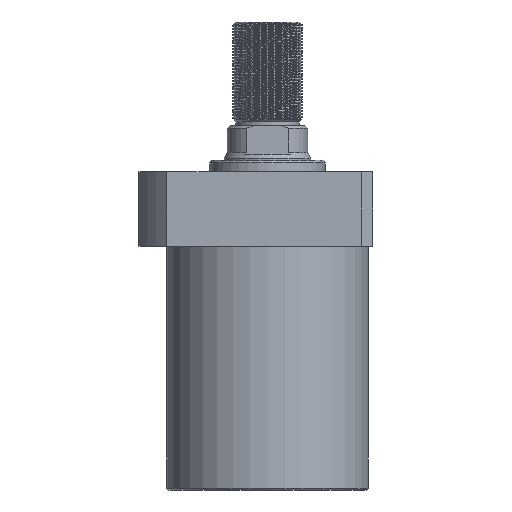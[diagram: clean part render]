
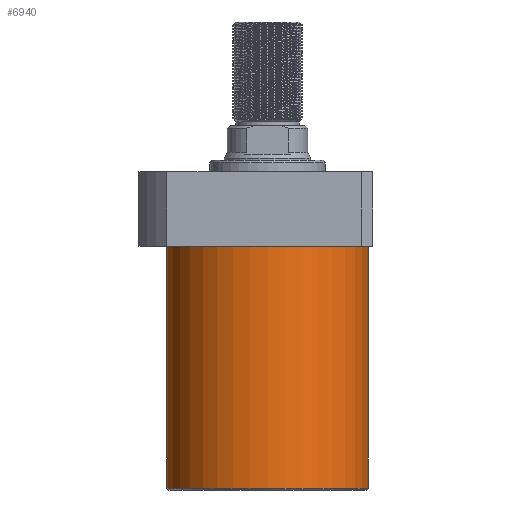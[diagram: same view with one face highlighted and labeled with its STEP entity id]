
A CAD part, front view. The second image highlights one B-rep face of the part: STEP entity #6940.
In plain terms, the highlighted cylindrical face has radius 52.5 mm (diameter 105 mm), a partial arc.
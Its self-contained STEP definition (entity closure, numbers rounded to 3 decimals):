
#470 = CARTESIAN_POINT ( 'NONE',  ( 52.5, 0., -145.5 ) ) ;
#562 = DIRECTION ( 'NONE',  ( 0., 0., -1. ) ) ;
#571 = EDGE_CURVE ( 'NONE', #6699, #4148, #2013, .T. ) ;
#671 = CARTESIAN_POINT ( 'NONE',  ( 52.5, 0., -146.5 ) ) ;
#1030 = LINE ( 'NONE', #671, #7731 ) ;
#1479 = DIRECTION ( 'NONE',  ( 1., 0., 0. ) ) ;
#1556 = ORIENTED_EDGE ( 'NONE', *, *, #4036, .T. ) ;
#1613 = ORIENTED_EDGE ( 'NONE', *, *, #8180, .T. ) ;
#2013 = LINE ( 'NONE', #6264, #6746 ) ;
#2092 = ORIENTED_EDGE ( 'NONE', *, *, #571, .F. ) ;
#2661 = CYLINDRICAL_SURFACE ( 'NONE', #2695, 52.5 ) ;
#2695 = AXIS2_PLACEMENT_3D ( 'NONE', #6024, #6667, #1479 ) ;
#2770 = DIRECTION ( 'NONE',  ( 0., 0., 1. ) ) ;
#2806 = CIRCLE ( 'NONE', #7689, 52.5 ) ;
#3049 = EDGE_LOOP ( 'NONE', ( #2092, #1556, #1613, #3697 ) ) ;
#3697 = ORIENTED_EDGE ( 'NONE', *, *, #4393, .T. ) ;
#4036 = EDGE_CURVE ( 'NONE', #6699, #6520, #2806, .T. ) ;
#4148 = VERTEX_POINT ( 'NONE', #8032 ) ;
#4320 = AXIS2_PLACEMENT_3D ( 'NONE', #4435, #562, #5085 ) ;
#4393 = EDGE_CURVE ( 'NONE', #4902, #4148, #8332, .T. ) ;
#4435 = CARTESIAN_POINT ( 'NONE',  ( 0., 0., -19.5 ) ) ;
#4902 = VERTEX_POINT ( 'NONE', #7475 ) ;
#5085 = DIRECTION ( 'NONE',  ( 1., 0., 0. ) ) ;
#5194 = DIRECTION ( 'NONE',  ( 0., 0., 1. ) ) ;
#5875 = CARTESIAN_POINT ( 'NONE',  ( -52.5, 0., -145.5 ) ) ;
#6024 = CARTESIAN_POINT ( 'NONE',  ( 0., 0., -146.5 ) ) ;
#6264 = CARTESIAN_POINT ( 'NONE',  ( -52.5, 0., -146.5 ) ) ;
#6520 = VERTEX_POINT ( 'NONE', #470 ) ;
#6641 = CARTESIAN_POINT ( 'NONE',  ( 0., 0., -145.5 ) ) ;
#6667 = DIRECTION ( 'NONE',  ( 0., 0., 1. ) ) ;
#6699 = VERTEX_POINT ( 'NONE', #5875 ) ;
#6746 = VECTOR ( 'NONE', #6862, 1000. ) ;
#6862 = DIRECTION ( 'NONE',  ( 0., 0., 1. ) ) ;
#6940 = ADVANCED_FACE ( 'NONE', ( #7991 ), #2661, .T. ) ;
#7291 = DIRECTION ( 'NONE',  ( -1., 0., 0. ) ) ;
#7475 = CARTESIAN_POINT ( 'NONE',  ( 52.5, 0., -19.5 ) ) ;
#7689 = AXIS2_PLACEMENT_3D ( 'NONE', #6641, #2770, #7291 ) ;
#7731 = VECTOR ( 'NONE', #5194, 1000. ) ;
#7991 = FACE_OUTER_BOUND ( 'NONE', #3049, .T. ) ;
#8032 = CARTESIAN_POINT ( 'NONE',  ( -52.5, 0., -19.5 ) ) ;
#8180 = EDGE_CURVE ( 'NONE', #6520, #4902, #1030, .T. ) ;
#8332 = CIRCLE ( 'NONE', #4320, 52.5 ) ;
